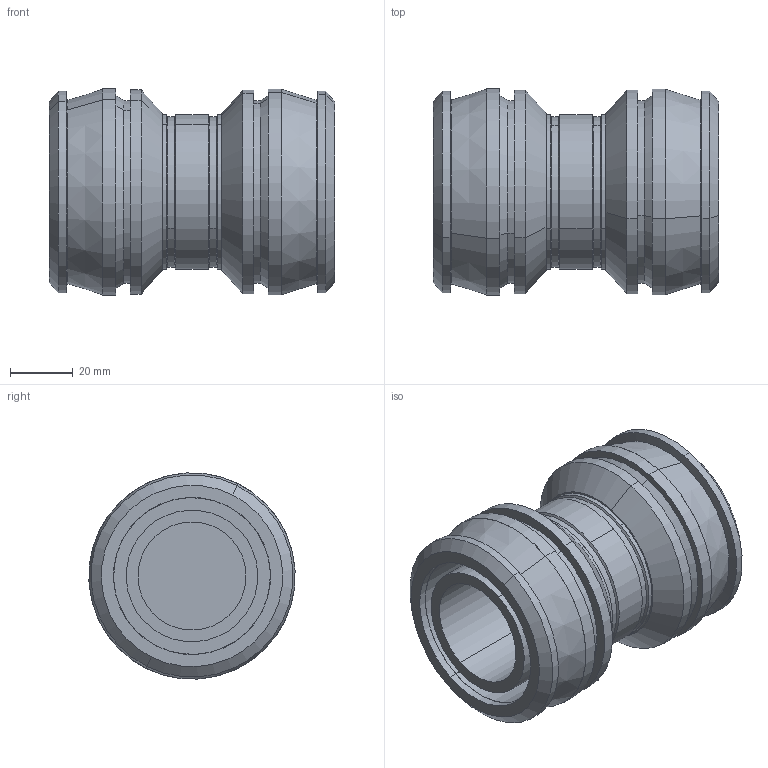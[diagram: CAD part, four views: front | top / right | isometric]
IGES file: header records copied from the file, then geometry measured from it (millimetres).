
Start section: 3D InterOp IGES (Version 25 0 1), Spatial Corp. Copyright (c) 1999-2007.
Global section: file name: pim0004791.igs; native system: Spatial Corp.; preprocessor: 3D InterOp ACIS/IGES; author: CAD-PIM; organization: TransMagic, Inc.; date: 20150617.102207; units: millimetre
Bounding box: 91 x 65.78 x 65.78 mm (x, y, z)
Volume: 172514.4 mm3; surface area: 48170 mm2
Topology: 1 solids, 1 shells, 88 faces, 230 edges, 160 vertices
Faces by surface type: cylinder 38, plane 18, cone 16, bspline 16
